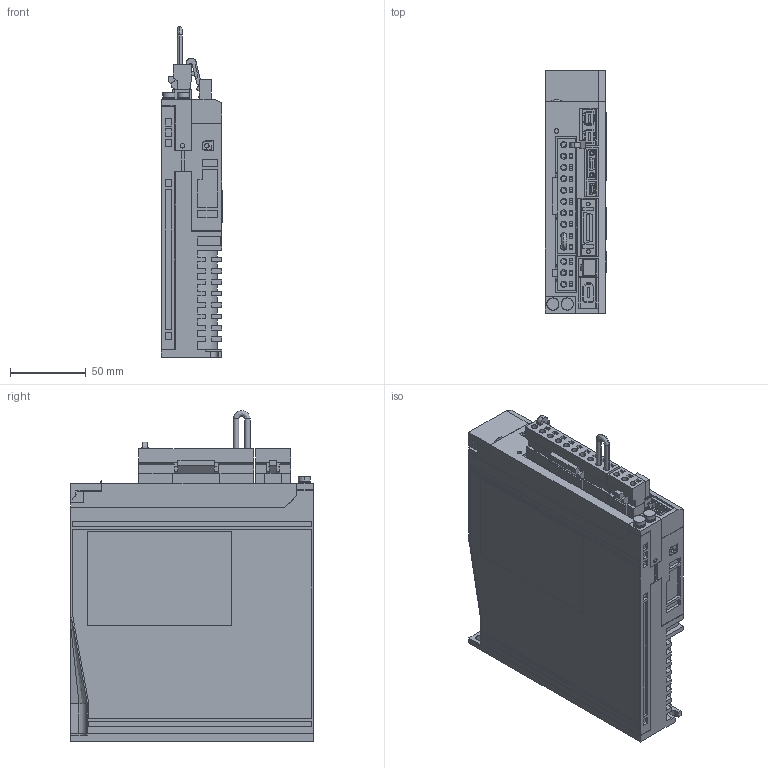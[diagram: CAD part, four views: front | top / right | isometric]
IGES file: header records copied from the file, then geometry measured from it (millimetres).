
Start section: SolidWorks IGES file using analytic representation for surfaces
Global section: file name: D:\YASKAWA\sgdv_2r8a2_b.IGS; native system: SolidWorks 2006 by SolidWorks Corporation; preprocessor: SolidWorks 2006 by SolidWorks Corporation; author: yamanouchi; date: 120828.133225; units: millimetre
Bounding box: 40.5 x 160 x 218 mm (x, y, z)
Surface area: 160547.6 mm2 (no closed solid volume)
Topology: 0 solids, 0 shells, 2043 faces, 14788 edges, 14788 vertices
Faces by surface type: bspline 1864, revolution 179
